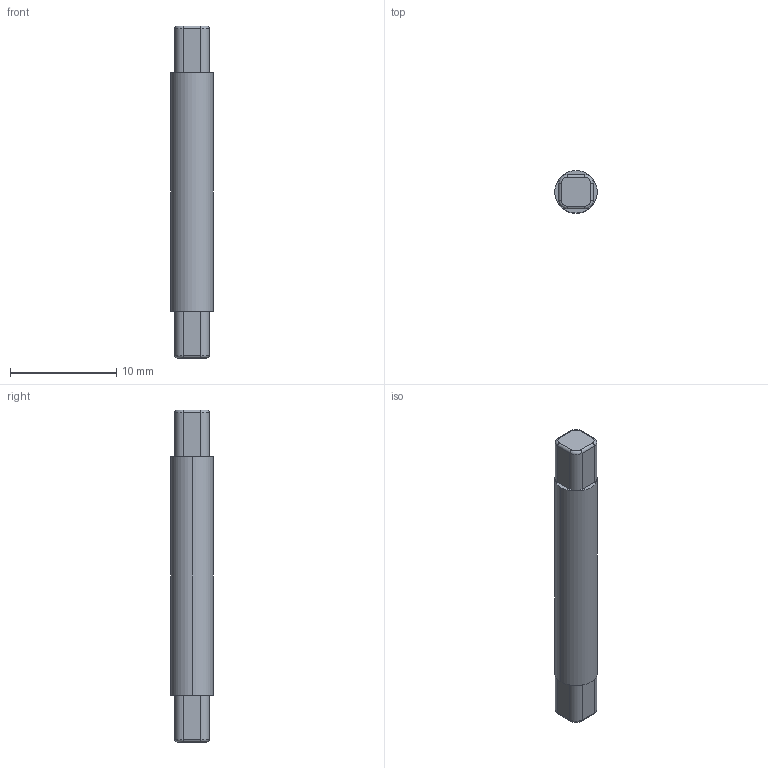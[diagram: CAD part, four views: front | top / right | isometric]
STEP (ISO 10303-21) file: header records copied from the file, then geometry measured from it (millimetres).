
FILE_DESCRIPTION((''),'2;1');
FILE_NAME('SHAFT3','2021-03-24T',('Saeed'),(''),'PRO/ENGINEER BY PARAMETRIC TECHNOLOGY CORPORATION, 2012130','PRO/ENGINEER BY PARAMETRIC TECHNOLOGY CORPORATION, 2012130','');
FILE_SCHEMA(('CONFIG_CONTROL_DESIGN'));
Length unit declared in the file: millimetre
Products named in the file (1): SHAFT3
Bounding box: 4 x 4 x 31.2 mm (x, y, z)
Volume: 368.1 mm3; surface area: 405.6 mm2
Topology: 1 solids, 1 shells, 38 faces, 86 edges, 52 vertices
Faces by surface type: cylinder 18, plane 12, torus 8
Entity records: 1104 total; most frequent: DIRECTION 206, CARTESIAN_POINT 176, ORIENTED_EDGE 172, EDGE_CURVE 86, AXIS2_PLACEMENT_3D 82, VERTEX_POINT 52, CIRCLE 44, VECTOR 42
